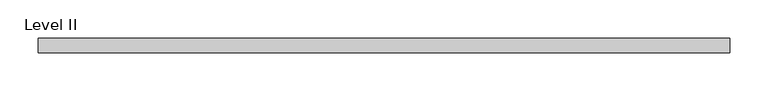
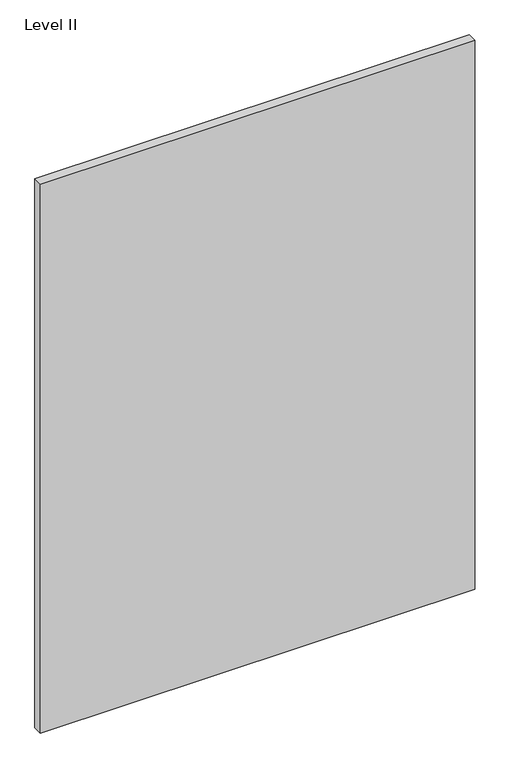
"""IFC4 building model written with IfcOpenShell, lengths in millimetres: proxy geometry, Panel-Fascia-Teknion-Altos : Level II."""

import ifcopenshell
import ifcopenshell.guid

model = None  # the IFC model being written
_history = None  # IfcOwnerHistory: only IFC2X3 demands one
_inside = {}  # id of a spatial element -> (the spatial element, [elements in it])
_under = {}  # id of a project, library or spatial element -> (it, [spatial elements below it])
_declared = {}  # id of a project -> (the project, [libraries it declares])
_typed = {}  # id of a type object -> (the type object, [elements of that type])
_made_of = {}  # id of a material, layer set ... -> (it, [elements and type objects made of it])


def new_model(schema):
    """Start an empty IFC model of exactly this schema.

    Asked for "IFC4X3", IfcOpenShell would pick the latest addendum, in which some entities
    have other attributes; the version numbers below select the first issue.
    IFC2X3 requires an IfcOwnerHistory on every rooted entity: one is made here for all.
    """
    global model, _history
    if schema == "IFC4X3":
        model = ifcopenshell.file(schema_version=(4, 3, 0, 0))
    else:
        model = ifcopenshell.file(schema=schema)
    _inside.clear()
    _under.clear()
    _declared.clear()
    _typed.clear()
    _made_of.clear()
    _history = None
    if model.schema == "IFC2X3":
        org = make("IfcOrganization", Name="unknown")
        user = make(
            "IfcPersonAndOrganization",
            ThePerson=make("IfcPerson", FamilyName="unknown"),
            TheOrganization=org,
        )
        app = make(
            "IfcApplication",
            ApplicationDeveloper=org,
            Version="unknown",
            ApplicationFullName="unknown",
            ApplicationIdentifier="unknown",
        )
        _history = make(
            "IfcOwnerHistory",
            OwningUser=user,
            OwningApplication=app,
            ChangeAction="ADDED",
            CreationDate=0,
        )
    return model


def make(cls, **values):
    """One entity of the class cls with the attributes given. An attribute that is None is left unset."""
    return model.create_entity(
        cls, **{name: value for name, value in values.items() if value is not None}
    )


def rooted(cls, **values):
    """An entity with a GlobalId (a new one), such as an element, a storey or a relation."""
    return make(cls, GlobalId=ifcopenshell.guid.new(), OwnerHistory=_history, **values)


def si_unit(unit_type, name, prefix=None):
    """IfcSIUnit, for example si_unit("LENGTHUNIT", "METRE", prefix="MILLI")."""
    return make("IfcSIUnit", UnitType=unit_type, Prefix=prefix, Name=name)


def assignment(units):
    """IfcUnitAssignment: the units of a project."""
    return None if units is None else make("IfcUnitAssignment", Units=units)


def point(xyz):
    """IfcCartesianPoint."""
    return None if xyz is None else make("IfcCartesianPoint", Coordinates=xyz)


def direction(xyz):
    """IfcDirection."""
    return None if xyz is None else make("IfcDirection", DirectionRatios=xyz)


def frame(location, z_axis=None, x_axis=None):
    """IfcAxis2Placement3D, a coordinate frame: its origin and axes. An axis left out is left unset."""
    return make(
        "IfcAxis2Placement3D",
        Location=point(location),
        Axis=direction(z_axis),
        RefDirection=direction(x_axis),
    )


def origin():
    """The frame at (0, 0, 0) with its axes left unset."""
    return frame((0.0, 0.0, 0.0))


def place(relative_to, where):
    """IfcLocalPlacement: puts the frame where relative to a parent placement (None: the world)."""
    return make(
        "IfcLocalPlacement", PlacementRelTo=relative_to, RelativePlacement=where
    )


def context(
    kind, dimensions, precision=None, world=None, true_north=None, identifier=None
):
    """IfcGeometricRepresentationContext, for example the 3D "Model" context."""
    return make(
        "IfcGeometricRepresentationContext",
        ContextIdentifier=identifier,
        ContextType=kind,
        CoordinateSpaceDimension=dimensions,
        Precision=precision,
        WorldCoordinateSystem=world,
        TrueNorth=true_north,
    )


def project(units=None, contexts=None):
    """IfcProject with its units and contexts."""
    return rooted(
        "IfcProject",
        Name="project",
        RepresentationContexts=contexts,
        UnitsInContext=assignment(units),
    )


def spatial(cls, under=None, at=None, **own):
    """A site, building, storey or space (cls), placed at a placement, below another one or the project."""
    s = rooted(cls, ObjectPlacement=at, **own)
    if under is not None:
        _under.setdefault(under.id(), (under, []))[1].append(s)
    return s


def polyline(points):
    """IfcPolyline through the points."""
    return make("IfcPolyline", Points=[point(p) for p in points])


def outline(outer, holes=None, kind="AREA"):
    """IfcArbitraryClosedProfileDef: a profile drawn as a closed curve; with holes, ...WithVoids."""
    if holes is None:
        return make("IfcArbitraryClosedProfileDef", ProfileType=kind, OuterCurve=outer)
    return make(
        "IfcArbitraryProfileDefWithVoids",
        ProfileType=kind,
        OuterCurve=outer,
        InnerCurves=holes,
    )


def extrude(swept, where, along, depth):
    """IfcExtrudedAreaSolid: the profile swept, set in the frame where, extruded along a direction by depth."""
    return make(
        "IfcExtrudedAreaSolid",
        SweptArea=swept,
        Position=where,
        ExtrudedDirection=direction(along),
        Depth=depth,
    )


def shape(context_of_items, identifier, shape_type, items):
    """IfcShapeRepresentation: the items that make up one representation, for example the "Body"."""
    return make(
        "IfcShapeRepresentation",
        ContextOfItems=context_of_items,
        RepresentationIdentifier=identifier,
        RepresentationType=shape_type,
        Items=items,
    )


def source(mapping_origin, context_of_items, identifier, shape_type, items):
    """IfcRepresentationMap: a shape defined once, which mapped items show again and again."""
    return make(
        "IfcRepresentationMap",
        MappingOrigin=mapping_origin,
        MappedRepresentation=shape(context_of_items, identifier, shape_type, items),
    )


def transform(
    local_origin,
    x_axis=None,
    y_axis=None,
    z_axis=None,
    scale=None,
    scale2=None,
    scale3=None,
    uniform=True,
):
    """IfcCartesianTransformationOperator3D, or its non-uniform kind. x_axis, y_axis, z_axis: its Axis1, 2, 3."""
    if uniform:
        return make(
            "IfcCartesianTransformationOperator3D",
            Axis1=direction(x_axis),
            Axis2=direction(y_axis),
            LocalOrigin=point(local_origin),
            Scale=scale,
            Axis3=direction(z_axis),
        )
    return make(
        "IfcCartesianTransformationOperator3DnonUniform",
        Axis1=direction(x_axis),
        Axis2=direction(y_axis),
        LocalOrigin=point(local_origin),
        Scale=scale,
        Axis3=direction(z_axis),
        Scale2=scale2,
        Scale3=scale3,
    )


def mapped(mapping_source, mapping_target):
    """IfcMappedItem: shows the shape of a source again, moved by a transform."""
    return make(
        "IfcMappedItem", MappingSource=mapping_source, MappingTarget=mapping_target
    )


def made_of(thing, what):
    """Note that an element or type object is made of a material, layer set ...; save() writes the relation."""
    if what is not None:
        _made_of.setdefault(what.id(), (what, []))[1].append(thing)
    return thing


def element(
    cls,
    number,
    at=None,
    inside=None,
    cuts=None,
    type_object=None,
    material=None,
    context=None,
    identifier="Body",
    shape_type=None,
    held_by="IfcProductDefinitionShape",
    body=None,
    shapes=None,
    **own,
):
    """One element of the class cls, such as IfcWall. Its Tag is "e" and its number.

    at: its placement. inside: the storey or other place that contains it. cuts: it is an
    opening in that element (IfcRelVoidsElement). A single representation is given by context,
    identifier, shape_type and body (its items); several are given by shapes. held_by: the class
    of the entity that holds the representations. save() writes the other relations.
    """
    e = rooted(cls, Tag="e%d" % number, ObjectPlacement=at, **own)
    if body is not None:
        shapes = [shape(context, identifier, shape_type, body)]
    if shapes is not None:
        e.Representation = make(held_by, Representations=shapes)
    if inside is not None:
        _inside.setdefault(inside.id(), (inside, []))[1].append(e)
    if cuts is not None:
        rooted(
            "IfcRelVoidsElement", RelatingBuildingElement=cuts, RelatedOpeningElement=e
        )
    if type_object is not None:
        _typed.setdefault(type_object.id(), (type_object, []))[1].append(e)
    return made_of(e, material)


def aggregate(whole, parts):
    """IfcRelAggregates: a whole, such as a stair, and the parts it consists of."""
    return rooted("IfcRelAggregates", RelatingObject=whole, RelatedObjects=parts)


def save(model, path):
    """Write the relations noted so far, then the file.

    IfcRelAggregates (storeys below a building ...), IfcRelContainedInSpatialStructure (elements
    in a storey), IfcRelDefinesByType, IfcRelAssociatesMaterial and IfcRelDeclares: one each for
    every whole, place, type object, material and project.
    """
    for whole, parts in _under.values():
        aggregate(whole, parts)
    for where, things in _inside.values():
        rooted(
            "IfcRelContainedInSpatialStructure",
            RelatedElements=things,
            RelatingStructure=where,
        )
    for kind, things in _typed.values():
        rooted("IfcRelDefinesByType", RelatedObjects=things, RelatingType=kind)
    for what, things in _made_of.values():
        rooted("IfcRelAssociatesMaterial", RelatedObjects=things, RelatingMaterial=what)
    for by, libraries in _declared.values():
        rooted("IfcRelDeclares", RelatingContext=by, RelatedDefinitions=libraries)
    model.write(path)


def level_ii_09c6d2e8(model_context):
    return source(origin(), model_context, "Body", "SweptSolid", [
        extrude(outline(polyline([(454.0305563, -9.525), (-454.0305562, -9.525), (-454.0305562, 9.525), (454.0305563, 9.525), (454.0305563, -9.525)])), frame((0.0, 0.0, 3.175), z_axis=(0.0, 0.0, 1.0), x_axis=(1.0, 0.0, 0.0)), (0.0, 0.0, 1.0), 1212.85),
    ])


if __name__ == "__main__":
    model = new_model("IFC4")
    model_context = context("Model", 3, world=origin())
    ifc_project = project(units=[si_unit("LENGTHUNIT", "METRE", prefix="MILLI")], contexts=[model_context])
    site = spatial("IfcSite", under=ifc_project)
    building = spatial("IfcBuilding", under=site)
    placement = place(None, origin())
    level_ii_shape = level_ii_09c6d2e8(model_context)
    element("IfcBuildingElementProxy", 1, Name="Panel-Fascia-Teknion-Altos : Level II", ObjectType="Panel-Fascia-Teknion-Altos : Level II", at=placement, inside=building, context=model_context, shape_type="MappedRepresentation", body=[
        mapped(level_ii_shape, transform((0.0, 0.0, 0.0), x_axis=(1.0, 0.0, 0.0), y_axis=(0.0, 1.0, 0.0), z_axis=(0.0, 0.0, 1.0))),
    ])
    save(model, "model.ifc")
